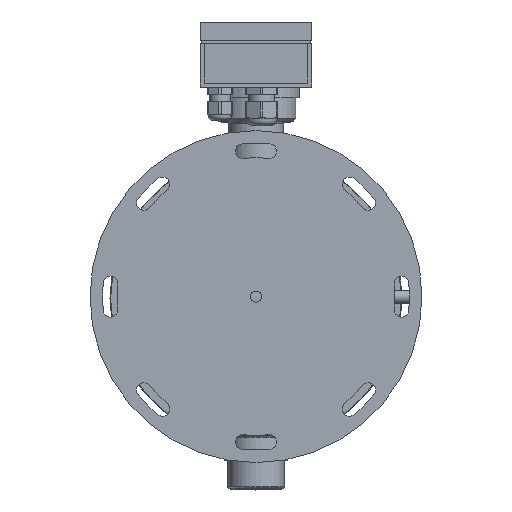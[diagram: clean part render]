
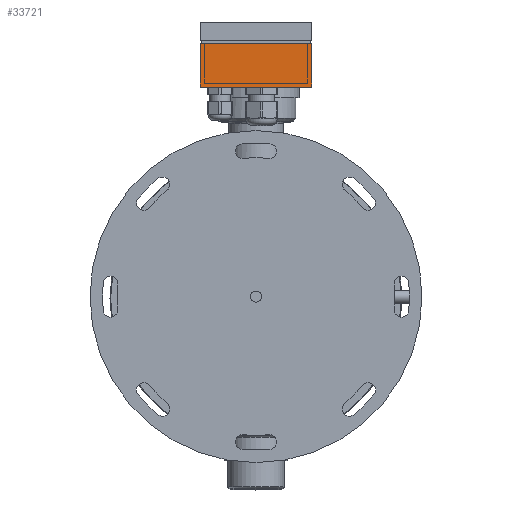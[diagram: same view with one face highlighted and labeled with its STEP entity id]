
A CAD part, top view. The second image highlights one B-rep face of the part: STEP entity #33721.
In plain terms, the highlighted planar face has unit normal (0, 0, 1).
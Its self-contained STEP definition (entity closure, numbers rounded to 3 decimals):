
#1106=PLANE('',#35819);
#5046=FACE_OUTER_BOUND('',#7166,.T.);
#7166=EDGE_LOOP('',(#29331,#29332,#29333,#29334));
#10526=LINE('',#70766,#12768);
#10532=LINE('',#70781,#12774);
#10533=LINE('',#70783,#12775);
#10534=LINE('',#70784,#12776);
#12768=VECTOR('',#41690,10.);
#12774=VECTOR('',#41704,10.);
#12775=VECTOR('',#41707,10.);
#12776=VECTOR('',#41708,10.);
#15831=VERTEX_POINT('',#70763);
#15832=VERTEX_POINT('',#70765);
#15836=VERTEX_POINT('',#70777);
#15837=VERTEX_POINT('',#70779);
#20420=EDGE_CURVE('',#15832,#15831,#10526,.T.);
#20428=EDGE_CURVE('',#15837,#15836,#10532,.T.);
#20429=EDGE_CURVE('',#15831,#15836,#10533,.T.);
#20430=EDGE_CURVE('',#15837,#15832,#10534,.T.);
#29331=ORIENTED_EDGE('',*,*,#20429,.T.);
#29332=ORIENTED_EDGE('',*,*,#20428,.F.);
#29333=ORIENTED_EDGE('',*,*,#20430,.T.);
#29334=ORIENTED_EDGE('',*,*,#20420,.T.);
#33721=ADVANCED_FACE('',(#5046),#1106,.T.);
#35819=AXIS2_PLACEMENT_3D('',#70782,#41705,#41706);
#41690=DIRECTION('',(0.,1.,0.));
#41704=DIRECTION('',(0.,1.,0.));
#41705=DIRECTION('center_axis',(0.,0.,
1.));
#41706=DIRECTION('ref_axis',(0.,-1.,0.));
#41707=DIRECTION('',(-1.,0.,0.));
#41708=DIRECTION('',(1.,0.,0.));
#70763=CARTESIAN_POINT('',(42.,191.,-52.));
#70765=CARTESIAN_POINT('',(42.,158.,-52.));
#70766=CARTESIAN_POINT('',(42.,158.,-52.));
#70777=CARTESIAN_POINT('',(-42.,191.,-52.));
#70779=CARTESIAN_POINT('',(-42.,158.,-52.));
#70781=CARTESIAN_POINT('',(-42.,158.,-52.));
#70782=CARTESIAN_POINT('Origin',(42.,158.,-52.));
#70783=CARTESIAN_POINT('',(21.,191.,-52.));
#70784=CARTESIAN_POINT('',(-42.,158.,-52.));
